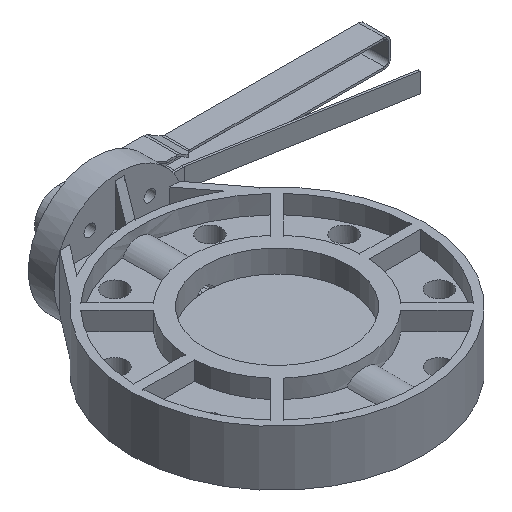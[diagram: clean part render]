
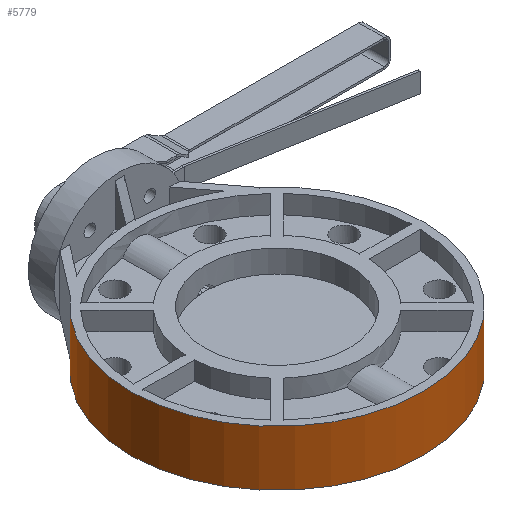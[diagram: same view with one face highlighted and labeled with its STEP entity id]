
A CAD part, isometric view. The second image highlights one B-rep face of the part: STEP entity #5779.
In plain terms, the highlighted cylindrical face has radius 142.481 mm (diameter 284.963 mm), a partial arc.
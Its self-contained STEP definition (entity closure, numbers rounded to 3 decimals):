
#124 = EDGE_LOOP ( 'NONE', ( #5863, #7550, #5377, #2331 ) ) ;
#272 = CARTESIAN_POINT ( 'NONE',  ( -92.037, 108.766, -26.924 ) ) ;
#335 = LINE ( 'NONE', #7780, #8936 ) ;
#433 = AXIS2_PLACEMENT_3D ( 'NONE', #5939, #5257, #6522 ) ;
#580 = CIRCLE ( 'NONE', #5344, 142.481 ) ;
#859 = EDGE_CURVE ( 'NONE', #2923, #3394, #580, .T. ) ;
#988 = VERTEX_POINT ( 'NONE', #272 ) ;
#2331 = ORIENTED_EDGE ( 'NONE', *, *, #859, .F. ) ;
#2679 = DIRECTION ( 'NONE',  ( -1., 0., 0. ) ) ;
#2923 = VERTEX_POINT ( 'NONE', #7396 ) ;
#3211 = AXIS2_PLACEMENT_3D ( 'NONE', #4157, #4249, #2679 ) ;
#3256 = DIRECTION ( 'NONE',  ( 0., 0., 1. ) ) ;
#3394 = VERTEX_POINT ( 'NONE', #5740 ) ;
#3395 = DIRECTION ( 'NONE',  ( 0., 0., 1. ) ) ;
#3456 = DIRECTION ( 'NONE',  ( 0., 0., 1. ) ) ;
#3647 = CIRCLE ( 'NONE', #433, 142.481 ) ;
#4145 = CARTESIAN_POINT ( 'NONE',  ( -92.037, 108.766, -216.217 ) ) ;
#4157 = CARTESIAN_POINT ( 'NONE',  ( 0., 0., 26.924 ) ) ;
#4168 = DIRECTION ( 'NONE',  ( 1., 0., 0. ) ) ;
#4249 = DIRECTION ( 'NONE',  ( 0., 0., -1. ) ) ;
#4725 = VECTOR ( 'NONE', #3456, 1000. ) ;
#5257 = DIRECTION ( 'NONE',  ( 0., 0., 1. ) ) ;
#5344 = AXIS2_PLACEMENT_3D ( 'NONE', #5538, #3395, #4168 ) ;
#5377 = ORIENTED_EDGE ( 'NONE', *, *, #6240, .T. ) ;
#5538 = CARTESIAN_POINT ( 'NONE',  ( 0., 0., 26.924 ) ) ;
#5646 = LINE ( 'NONE', #4145, #4725 ) ;
#5651 = VERTEX_POINT ( 'NONE', #9518 ) ;
#5740 = CARTESIAN_POINT ( 'NONE',  ( 92.037, 108.766, 26.924 ) ) ;
#5753 = CYLINDRICAL_SURFACE ( 'NONE', #3211, 142.481 ) ;
#5779 = ADVANCED_FACE ( 'NONE', ( #7370 ), #5753, .T. ) ;
#5863 = ORIENTED_EDGE ( 'NONE', *, *, #9442, .F. ) ;
#5939 = CARTESIAN_POINT ( 'NONE',  ( 0., 0., -26.924 ) ) ;
#6240 = EDGE_CURVE ( 'NONE', #5651, #3394, #335, .T. ) ;
#6522 = DIRECTION ( 'NONE',  ( 1., 0., 0. ) ) ;
#7370 = FACE_OUTER_BOUND ( 'NONE', #124, .T. ) ;
#7396 = CARTESIAN_POINT ( 'NONE',  ( -92.037, 108.766, 26.924 ) ) ;
#7550 = ORIENTED_EDGE ( 'NONE', *, *, #9289, .T. ) ;
#7780 = CARTESIAN_POINT ( 'NONE',  ( 92.037, 108.766, -216.217 ) ) ;
#8936 = VECTOR ( 'NONE', #3256, 1000. ) ;
#9289 = EDGE_CURVE ( 'NONE', #988, #5651, #3647, .T. ) ;
#9442 = EDGE_CURVE ( 'NONE', #988, #2923, #5646, .T. ) ;
#9518 = CARTESIAN_POINT ( 'NONE',  ( 92.037, 108.766, -26.924 ) ) ;
